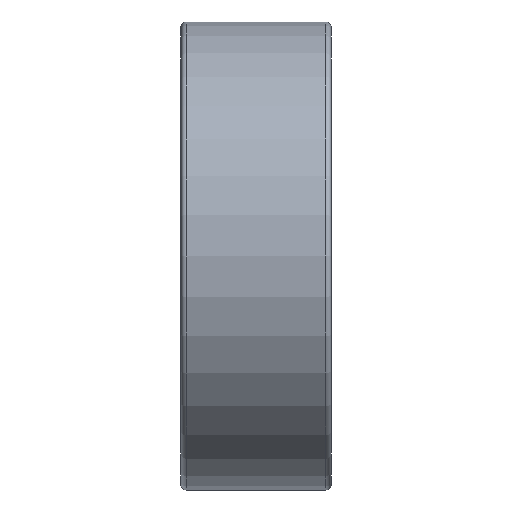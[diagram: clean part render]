
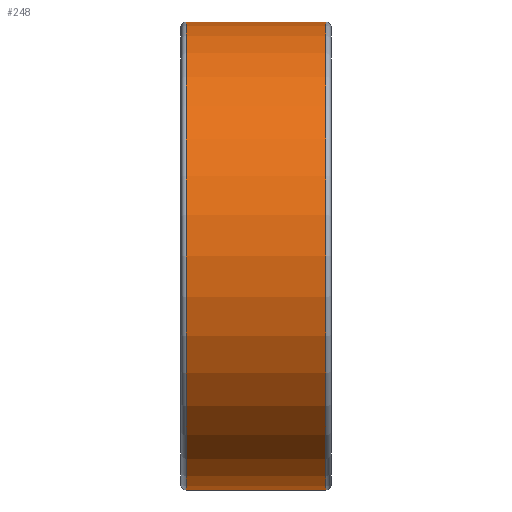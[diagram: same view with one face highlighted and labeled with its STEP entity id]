
A CAD part, left-side view. The second image highlights one B-rep face of the part: STEP entity #248.
In plain terms, the highlighted cylindrical face has radius 11.113 mm (diameter 22.225 mm), a full revolution.
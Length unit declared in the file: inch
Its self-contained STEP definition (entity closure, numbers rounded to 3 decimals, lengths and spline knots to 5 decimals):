
#29=LINE('',#481,#33);
#33=VECTOR('',#401,0.4375);
#37=CYLINDRICAL_SURFACE('',#309,0.4375);
#49=FACE_OUTER_BOUND('',#67,.T.);
#67=EDGE_LOOP('',(#207,#208,#209,#210,#211,#212));
#104=CIRCLE('',#302,0.4375);
#105=CIRCLE('',#303,0.4375);
#106=CIRCLE('',#305,0.4375);
#107=CIRCLE('',#306,0.4375);
#126=VERTEX_POINT('',#467);
#127=VERTEX_POINT('',#469);
#128=VERTEX_POINT('',#473);
#129=VERTEX_POINT('',#474);
#156=EDGE_CURVE('',#127,#126,#104,.T.);
#157=EDGE_CURVE('',#126,#127,#105,.T.);
#158=EDGE_CURVE('',#128,#129,#106,.T.);
#159=EDGE_CURVE('',#129,#128,#107,.T.);
#162=EDGE_CURVE('',#128,#127,#29,.T.);
#207=ORIENTED_EDGE('',*,*,#158,.T.);
#208=ORIENTED_EDGE('',*,*,#159,.T.);
#209=ORIENTED_EDGE('',*,*,#162,.T.);
#210=ORIENTED_EDGE('',*,*,#156,.T.);
#211=ORIENTED_EDGE('',*,*,#157,.T.);
#212=ORIENTED_EDGE('',*,*,#162,.F.);
#248=ADVANCED_FACE('',(#49),#37,.T.);
#302=AXIS2_PLACEMENT_3D('',#470,#385,#386);
#303=AXIS2_PLACEMENT_3D('',#471,#387,#388);
#305=AXIS2_PLACEMENT_3D('',#475,#391,#392);
#306=AXIS2_PLACEMENT_3D('',#476,#393,#394);
#309=AXIS2_PLACEMENT_3D('',#480,#399,#400);
#385=DIRECTION('center_axis',(0.,-1.,0.));
#386=DIRECTION('ref_axis',(0.,0.,1.));
#387=DIRECTION('center_axis',(0.,-1.,0.));
#388=DIRECTION('ref_axis',(0.,0.,1.));
#391=DIRECTION('center_axis',(0.,1.,0.));
#392=DIRECTION('ref_axis',(0.,0.,1.));
#393=DIRECTION('center_axis',(0.,1.,0.));
#394=DIRECTION('ref_axis',(0.,0.,1.));
#399=DIRECTION('center_axis',(0.,-1.,0.));
#400=DIRECTION('ref_axis',(0.,0.,-1.));
#401=DIRECTION('',(0.,1.,0.));
#467=CARTESIAN_POINT('',(0.,0.27125,-0.4375));
#469=CARTESIAN_POINT('',(0.,0.27125,0.4375));
#470=CARTESIAN_POINT('Origin',(0.,0.27125,0.));
#471=CARTESIAN_POINT('Origin',(0.,0.27125,0.));
#473=CARTESIAN_POINT('',(0.,0.01,0.4375));
#474=CARTESIAN_POINT('',(0.,0.01,-0.4375));
#475=CARTESIAN_POINT('Origin',(0.,0.01,0.));
#476=CARTESIAN_POINT('Origin',(0.,0.01,0.));
#480=CARTESIAN_POINT('Origin',(0.,0.28125,0.));
#481=CARTESIAN_POINT('',(0.,0.28125,0.4375));
